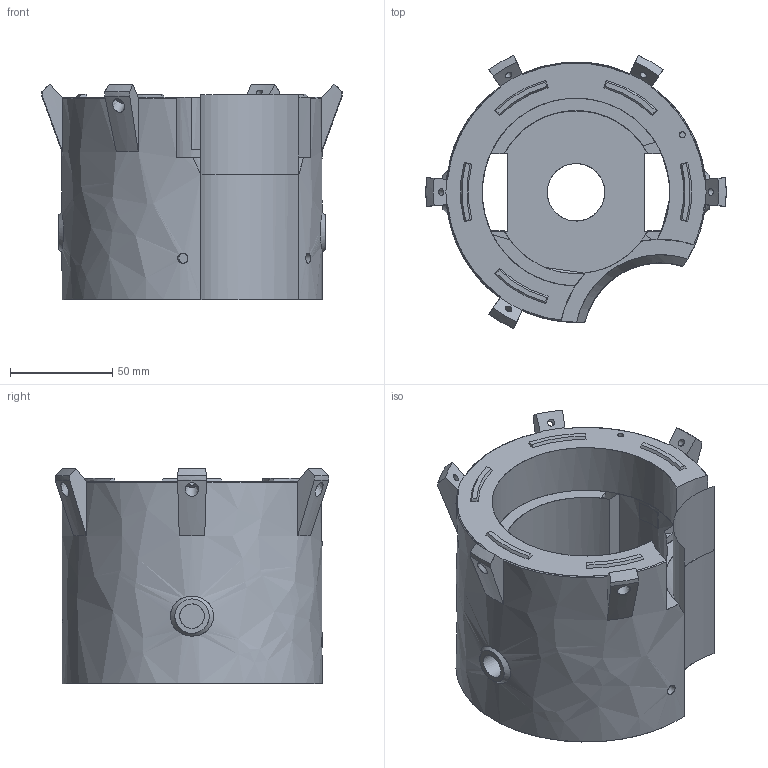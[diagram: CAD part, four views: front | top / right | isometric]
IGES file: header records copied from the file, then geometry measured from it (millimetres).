
Global section: file name: E:\M1337\M1337 Remodel\Metric\Clutch\IGES Files\Clutch Housing Metric.igs; native system: NX V2007; preprocessor: SIEMENS PLM Software NX 2027; date: 20260731.140512; units: millimetre
Bounding box: 146.6 x 133.41 x 105.05 mm (x, y, z)
Surface area: 100709.8 mm2 (no closed solid volume)
Topology: 0 solids, 0 shells, 176 faces, 1549 edges, 1713 vertices
Faces by surface type: bspline 176
